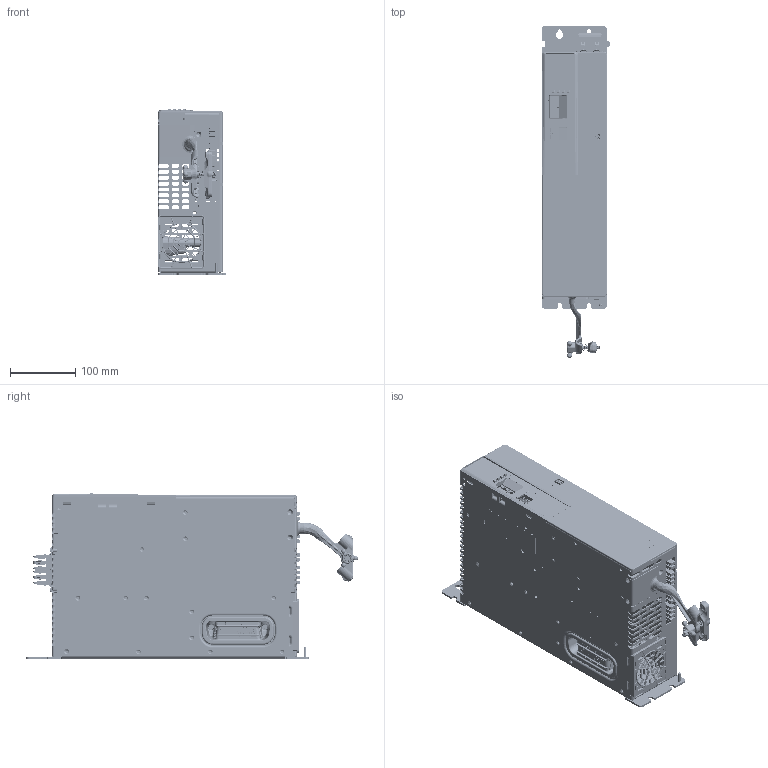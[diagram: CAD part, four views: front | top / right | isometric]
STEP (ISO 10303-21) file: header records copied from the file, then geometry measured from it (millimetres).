
FILE_DESCRIPTION((''),'2;1');
FILE_NAME('10004345491_ASM','2018-10-05T18:14:34',('KShring'),('Rockwell Automation'),'CREO PARAMETRIC BY PTC INC, 2017380','CREO PARAMETRIC BY PTC INC, 2017380','');
FILE_SCHEMA(('CONFIG_CONTROL_DESIGN'));
Products named in the file (42): 10000976738; 10001481743; 10001481744; 10001481745; 10000786619; 10001044789; 10001044790; 10001044791; 10001044792; 10001044793; 10001044794_ASM; 10001044795_ASM; 10000723207_AF0; 10000723207_AF1; 10001155725_ASM; 10001517971; 10001517974_ASM; 10000801670; 10001332438; 10000204789; PN-54516; 10000814756; 10001072660; 10000156675; 10001036371; 10000839189; 10000953208; M6-HEX-NUT; CN_PN-91887; CN_PN-202197; 10000154905; 10000154906; CN_PN-100769; CN_PN-221519; 10001579001; 10001646394; 10001481733; 10001481734; 10000793686; S-M3-2ZI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
Assembly tree (51 placements, depth 4):
  10004345491_ASM
    10000976738
    10001481743
    10001481744
    10001481745
    10000786619
    10001044795_ASM
      10001044789  x2
      10001044790  x2
      10001044791  x2
      10001044794_ASM  x4
        10001044792
        10001044793
    10001155725_ASM
      10000723207_AF0
      10000723207_AF1
    10001517974_ASM
      10001517971
    10000801670
    10001332438
    10000204789
    PN-54516
    10000814756
    10001072660
    10000156675
    10001036371
    10000839189
    10000953208
    M6-HEX-NUT
    CN_PN-91887  x2
    CN_PN-202197
    10000154905
    10000154906
    CN_PN-100769
    CN_PN-221519
    10001579001  x2
    10001646394  x2
    10001481733
    10001526883_ASM
      10001481734
      10000793686
      S-M3-2ZI  x2
Bounding box: 104.88 x 508.37 x 253.25 mm (x, y, z)
Volume: 880333.1 mm3; surface area: 847333.3 mm2
Topology: 49 solids, 53 shells, 17771 faces, 46804 edges, 29506 vertices
Faces by surface type: plane 8824, cylinder 4277, bspline 2465, extrusion 692, torus 556, sphere 485, cone 456, revolution 16
Entity records: 588598 total; most frequent: CARTESIAN_POINT 247282, ORIENTED_EDGE 76681, DIRECTION 61139, EDGE_CURVE 38384, VERTEX_POINT 24110, VECTOR 23133, LINE 22546, AXIS2_PLACEMENT_3D 18995
